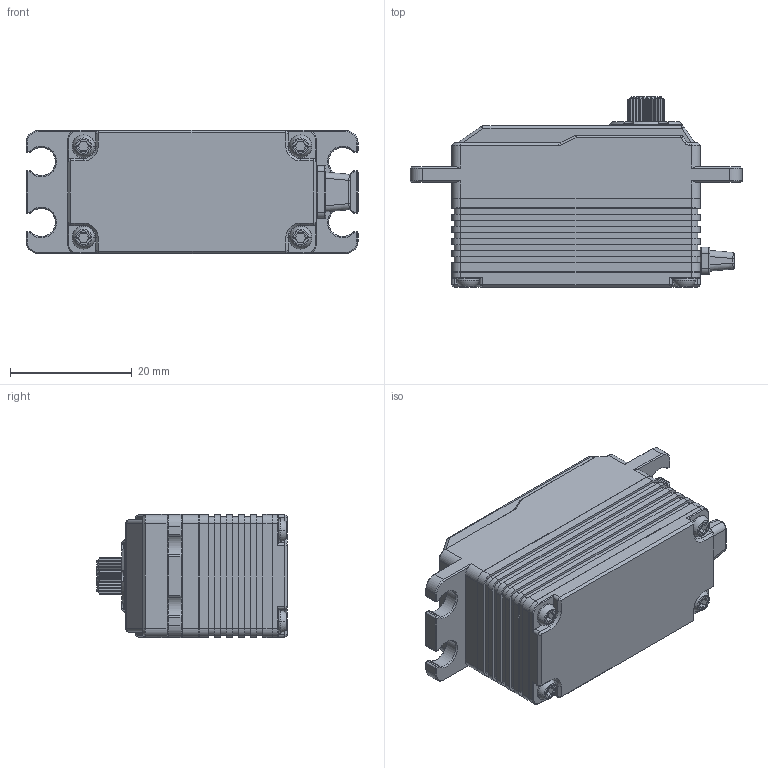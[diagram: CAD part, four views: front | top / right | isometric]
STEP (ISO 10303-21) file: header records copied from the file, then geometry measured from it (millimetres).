
FILE_DESCRIPTION((''),'2;1');
FILE_NAME('DDJ-STDLOW2-A62-AGF','2025-03-20T',('扂'),(''),'PRO/ENGINEER BY PARAMETRIC TECHNOLOGY CORPORATION, 2010280','PRO/ENGINEER BY PARAMETRIC TECHNOLOGY CORPORATION, 2010280','');
FILE_SCHEMA(('CONFIG_CONTROL_DESIGN'));
Length unit declared in the file: millimetre
Products named in the file (1): DDJ-STDLOW2-A62-AGF
Bounding box: 54.5 x 31.3 x 20.2 mm (x, y, z)
Volume: 21770.4 mm3; surface area: 6192.4 mm2
Topology: 1 solids, 1 shells, 765 faces, 1955 edges, 1209 vertices
Faces by surface type: plane 312, cylinder 280, cone 88, torus 55, bspline 18, sphere 12
Entity records: 26496 total; most frequent: CARTESIAN_POINT 7927, DIRECTION 3924, ORIENTED_EDGE 3898, EDGE_CURVE 1949, AXIS2_PLACEMENT_3D 1434, VERTEX_POINT 1209, VECTOR 1056, LINE 1056
